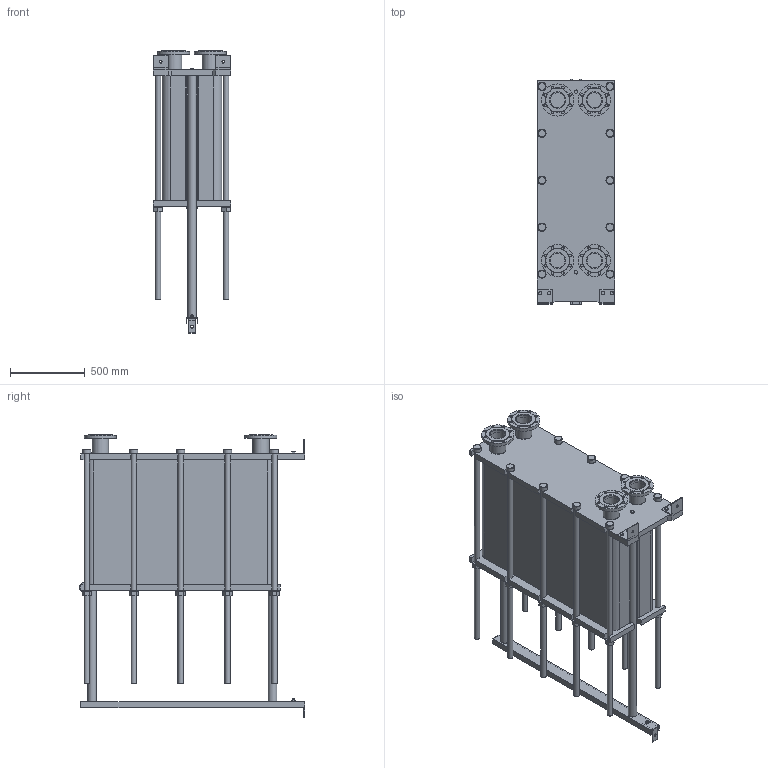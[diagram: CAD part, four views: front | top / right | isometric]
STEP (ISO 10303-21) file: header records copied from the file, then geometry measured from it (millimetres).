
FILE_DESCRIPTION(/* description */ (''),/* implementation_level */ '2;1');
FILE_NAME(/* name */ 'C:\Users\zhuro\Desktop\ENCO\TO\ЭН-04\ЭН-0,5-04-242-1.stp',/* time_stamp */ '2022-06-06T11:06:20+03:00',/* author */ ('zhuro'),/* organization */ (''),/* preprocessor_version */ 'ST-DEVELOPER v18.1',/* originating_system */ 'Autodesk Inventor 2022',/* authorisation */ '');
FILE_SCHEMA (('AUTOMOTIVE_DESIGN { 1 0 10303 214 3 1 1 }'));
Length unit declared in the file: millimetre
Products named in the file (1): ЭН-0,5-04-242-1
Bounding box: 520 x 1510 x 1896 mm (x, y, z)
Volume: 496096276.3 mm3; surface area: 11477855.4 mm2
Topology: 45 solids, 45 shells, 668 faces, 1611 edges, 1048 vertices
Faces by surface type: plane 457, cylinder 166, cone 39, torus 6
Full cylindrical faces by diameter (mm): 8 x4, 10 x2, 16 x8, 18 x35, 36 x25, 40 x2, 42 x1, 45 x4, 54 x10, 57 x2, 60 x10, 68 x2, 100 x4, 110 x8, 215 x4
Entity records: 23607 total; most frequent: CARTESIAN_POINT 7348, DIRECTION 3371, ORIENTED_EDGE 3142, EDGE_CURVE 1571, AXIS2_PLACEMENT_3D 1199, VERTEX_POINT 1044, LINE 973, VECTOR 973
